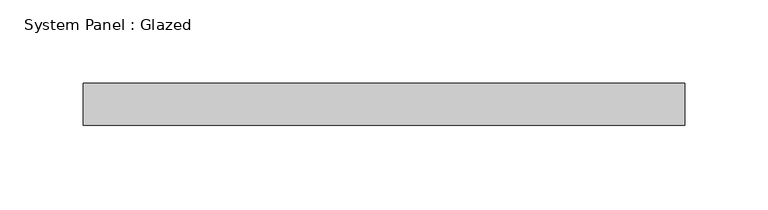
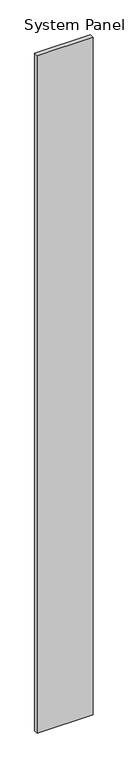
"""IFC4 building model written with IfcOpenShell, lengths in millimetres: plate geometry, System Panel : Glazed."""

from ifc_helpers import new_model, si_unit, origin, origin_with_axes, place, context, project, spatial, polyline, outline, extrude, source, transform, mapped, element, save


def system_panel_glazed_6e853645(model_context):
    return source(origin(), model_context, "Body", "SweptSolid", [
        extrude(outline(polyline([(180.975, 19.05), (-180.975, 19.05), (-180.975, 44.45), (180.975, 44.45), (180.975, 19.05)])), origin_with_axes(), (0.0, 0.0, 1.0), 4629.15),
    ])


if __name__ == "__main__":
    model = new_model("IFC4")
    model_context = context("Model", 3, world=origin())
    ifc_project = project(units=[si_unit("LENGTHUNIT", "METRE", prefix="MILLI")], contexts=[model_context])
    site = spatial("IfcSite", under=ifc_project)
    building = spatial("IfcBuilding", under=site)
    placement = place(None, origin())
    system_panel_glazed_shape = system_panel_glazed_6e853645(model_context)
    element("IfcPlate", 1, ObjectType="System Panel : Glazed", at=placement, inside=building, context=model_context, shape_type="MappedRepresentation", body=[
        mapped(system_panel_glazed_shape, transform((0.0, 0.0, 0.0), x_axis=(1.0, 0.0, 0.0), y_axis=(0.0, 1.0, 0.0), z_axis=(0.0, 0.0, 1.0))),
    ])
    save(model, "model.ifc")
